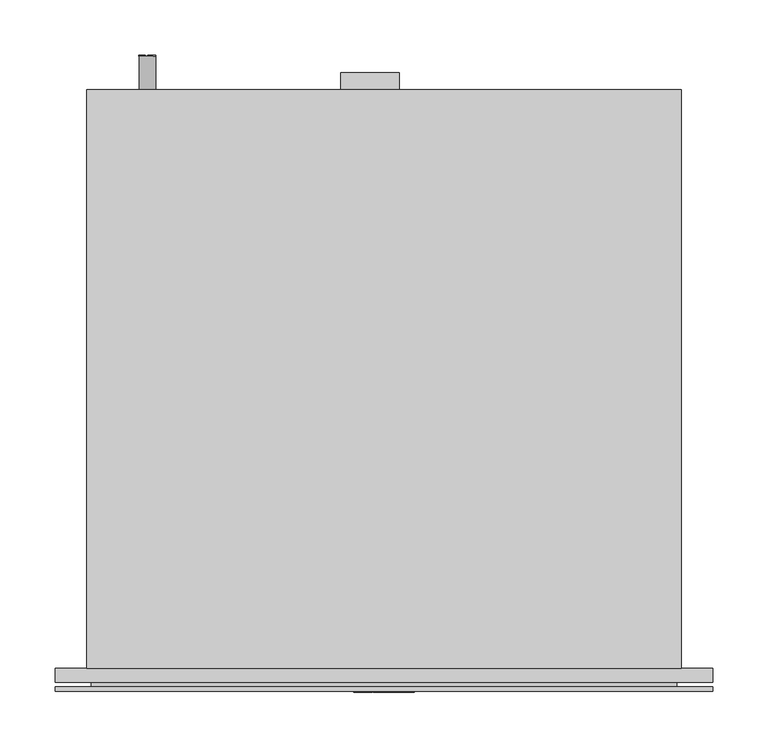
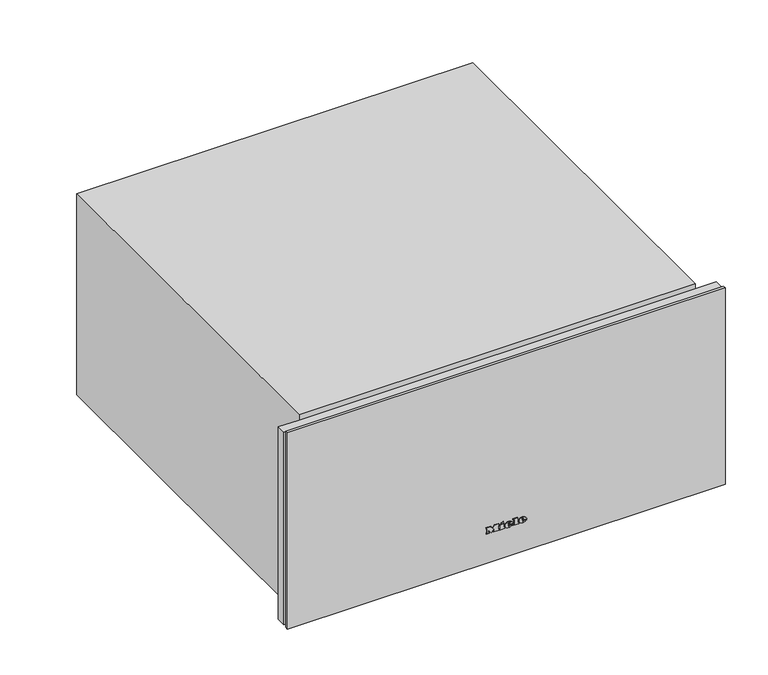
"""IFC4 building model written with IfcOpenShell, lengths in millimetres: proxy geometry, 11114600_TR_ESW7020_GRGR : 30702030_TR_11114600_ESW7020_GRGR."""

from ifc_helpers import new_model, si_unit, point, frame, frame_2d, origin, place, context, project, spatial, polyline, circle_curve, ellipse_curve, trimmed, segment, composite_curve, outline, extrude, faceted_brep, source, transform, mapped, element, save
from ifc_brep_helpers import plane_surface, cylinder_surface, revolved_surface, extruded_surface, advanced_brep


def specialty_equipment_7f4cc5ff(model_context):
    return source(origin(), model_context, "Body", "SolidModel", [
        advanced_brep(
        [(21.28, -22.0, 48.133), (21.28, -22.0, 49.042), (27.301, -22.0, 49.042), (16.825, -22.0, 49.042), (19.3, -22.0, 46.0), (27.148, -22.0, 48.133), (24.43, -22.0, 48.133), (22.288, -22.0, 47.125), (21.28, -22.0, 50.194), (21.28, -22.0, 51.175), (22.819, -22.0, 51.175), (22.819, -22.0, 50.194), (21.28, -21.0, 48.133), (22.288, -21.0, 47.125), (24.43, -21.0, 48.133), (27.148, -21.0, 48.133), (19.3, -21.0, 46.0), (16.825, -21.0, 49.042), (27.301, -21.0, 49.042), (21.28, -21.0, 49.042), (21.28, -21.0, 50.194), (22.819, -21.0, 50.194), (22.819, -21.0, 51.175), (21.28, -21.0, 51.175)],
        [
            (0, 1),
            (1, 2),
            (2, 3, ellipse_curve(frame((22.063, -22.0, 49.042), z_axis=(0.0, -1.0, 0.0), x_axis=(-1.0, 0.0, 0.0)), 5.238, 4.329)),
            (3, 4, circle_curve(frame((20.3080491, -22.0, 49.348), z_axis=(0.0, -1.0, 0.0), x_axis=(0.0, 0.0, -1.0)), 3.4964649)),
            (4, 5, circle_curve(frame((21.9581428, -22.0, 51.724), z_axis=(0.0, -1.0, 0.0), x_axis=(0.0, 0.0, -1.0)), 6.3110933)),
            (5, 6),
            (6, 7, circle_curve(frame((22.7279412, -22.0, 48.97), z_axis=(0.0, 1.0, 0.0), x_axis=(0.0, 0.0, -1.0)), 1.896727)),
            (7, 0, circle_curve(frame((22.288, -22.0, 48.133), z_axis=(0.0, 1.0, 0.0), x_axis=(0.0, 0.0, -1.0)), 1.008)),
            (8, 9),
            (9, 10, circle_curve(frame((22.0495, -22.0, 51.175), z_axis=(0.0, 1.0, 0.0), x_axis=(0.0, 0.0, -1.0)), 0.7695)),
            (10, 11),
            (11, 8),
            (12, 13, circle_curve(frame((22.288, -21.0, 48.133), z_axis=(0.0, -1.0, 0.0), x_axis=(0.0, 0.0, -1.0)), 1.008)),
            (13, 14, circle_curve(frame((22.7279412, -21.0, 48.97), z_axis=(0.0, -1.0, 0.0), x_axis=(0.0, 0.0, -1.0)), 1.896727)),
            (14, 15),
            (15, 16, circle_curve(frame((21.9581428, -21.0, 51.724), z_axis=(0.0, 1.0, 0.0), x_axis=(0.0, 0.0, -1.0)), 6.3110933)),
            (16, 17, circle_curve(frame((20.3080491, -21.0, 49.348), z_axis=(0.0, 1.0, 0.0), x_axis=(0.0, 0.0, -1.0)), 3.4964649)),
            (17, 18, ellipse_curve(frame((22.063, -21.0, 49.042), z_axis=(0.0, 1.0, 0.0), x_axis=(-1.0, 0.0, 0.0)), 5.238, 4.329)),
            (18, 19),
            (19, 12),
            (20, 21),
            (21, 22),
            (22, 23, circle_curve(frame((22.0495, -21.0, 51.175), z_axis=(0.0, -1.0, 0.0), x_axis=(0.0, 0.0, -1.0)), 0.7695)),
            (23, 20),
            (0, 12),
            (19, 1),
            (18, 2),
            (5, 15),
            (14, 6),
            (17, 3),
            (13, 7),
            (16, 4),
            (8, 20),
            (23, 9),
            (22, 10),
            (21, 11),
        ],
        [
            plane_surface(frame((21.28, -22.0, 49.042), z_axis=(0.0, -1.0, 0.0), x_axis=(0.0, 0.0, 1.0))),
            plane_surface(frame((21.28, -21.0, 49.042), z_axis=(0.0, 1.0, 0.0), x_axis=(0.0, 0.0, -1.0))),
            plane_surface(frame((21.28, -22.0, 48.133), z_axis=(1.0, 0.0, 0.0), x_axis=(0.0, 1.0, 0.0))),
            plane_surface(frame((21.28, -22.0, 49.042), z_axis=(0.0, 0.0, -1.0), x_axis=(0.0, 1.0, 0.0))),
            plane_surface(frame((27.148, -22.0, 48.133), z_axis=(0.0, 0.0, 1.0), x_axis=(0.0, 1.0, 0.0))),
            extruded_surface(trimmed(ellipse_curve(frame((22.063, -20.0, 49.042), z_axis=(0.0, -1.0, 0.0), x_axis=(-1.0, 0.0, 0.0)), 5.238, 4.329), [point((27.301, -20.0, 49.042))], [point((16.825, -20.0, 49.042))], True, "CARTESIAN"), (0.0, -1.0, 0.0), 1.0),
            revolved_surface(polyline([(22.7279412, -21.0, 47.073273), (22.7279412, -22.0, 47.073273)]), (22.7279412, -21.0, 48.97), (0.0, 1.0, 0.0)),
            revolved_surface(polyline([(22.288, -21.0, 47.125), (22.288, -22.0, 47.125)]), (22.288, -21.0, 48.133), (0.0, 1.0, 0.0)),
            cylinder_surface(frame((20.3080491, -21.0, 49.348), z_axis=(0.0, -1.0, 0.0), x_axis=(0.0, 0.0, -1.0)), 3.4964649),
            cylinder_surface(frame((21.9581428, -21.0, 51.724), z_axis=(0.0, -1.0, 0.0), x_axis=(0.0, 0.0, -1.0)), 6.3110933),
            plane_surface(frame((21.28, -22.0, 50.194), z_axis=(1.0, 0.0, 0.0), x_axis=(0.0, 1.0, 0.0))),
            revolved_surface(polyline([(22.0495, -21.0, 50.405499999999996), (22.0495, -22.0, 50.405499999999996)]), (22.0495, -21.0, 51.175), (0.0, 1.0, 0.0)),
            plane_surface(frame((22.819, -22.0, 51.175), z_axis=(-1.0, 0.0, 0.0), x_axis=(0.0, 1.0, 0.0))),
            plane_surface(frame((22.819, -22.0, 50.194), z_axis=(0.0, 0.0, 1.0), x_axis=(0.0, 1.0, 0.0))),
        ],
        [
            (0, [[1, 2, 3, 4, 5, 6, 7, 8], [9, 10, 11, 12]]),
            (1, [[13, 14, 15, 16, 17, 18, 19, 20], [21, 22, 23, 24]]),
            (2, [[-1, 25, -20, 26]]),
            (3, [[-2, -26, -19, 27]]),
            (4, [[-6, 28, -15, 29]]),
            (5, [[-3, -27, -18, 30]]),
            (6, [[-7, -29, -14, 31]]),
            (7, [[-8, -31, -13, -25]]),
            (8, [[-4, -30, -17, 32]]),
            (9, [[-5, -32, -16, -28]]),
            (10, [[-9, 33, -24, 34]]),
            (11, [[-10, -34, -23, 35]]),
            (12, [[-11, -35, -22, 36]]),
            (13, [[-12, -36, -21, -33]]),
        ],
    ),
        advanced_brep(
        [(2.497, -22.0, 48.133), (2.497, -22.0, 49.042), (8.518, -22.0, 49.042), (-1.958, -22.0, 49.042), (0.517, -22.0, 46.0), (8.365, -22.0, 48.133), (5.647, -22.0, 48.133), (3.505, -22.0, 47.125), (2.497, -22.0, 50.194), (2.497, -22.0, 51.175), (4.036, -22.0, 51.175), (4.036, -22.0, 50.194), (2.497, -21.0, 48.133), (3.505, -21.0, 47.125), (5.647, -21.0, 48.133), (8.365, -21.0, 48.133), (0.517, -21.0, 46.0), (-1.958, -21.0, 49.042), (8.518, -21.0, 49.042), (2.497, -21.0, 49.042), (2.497, -21.0, 50.194), (4.036, -21.0, 50.194), (4.036, -21.0, 51.175), (2.497, -21.0, 51.175)],
        [
            (0, 1),
            (1, 2),
            (2, 3, ellipse_curve(frame((3.28, -22.0, 49.042), z_axis=(0.0, -1.0, 0.0), x_axis=(-1.0, 0.0, 0.0)), 5.238, 4.329)),
            (3, 4, circle_curve(frame((1.5250491, -22.0, 49.348), z_axis=(0.0, -1.0, 0.0), x_axis=(0.0, 0.0, -1.0)), 3.4964649)),
            (4, 5, circle_curve(frame((3.1751428, -22.0, 51.724), z_axis=(0.0, -1.0, 0.0), x_axis=(0.0, 0.0, -1.0)), 6.3110933)),
            (5, 6),
            (6, 7, circle_curve(frame((3.9449412, -22.0, 48.97), z_axis=(0.0, 1.0, 0.0), x_axis=(0.0, 0.0, -1.0)), 1.896727)),
            (7, 0, circle_curve(frame((3.505, -22.0, 48.133), z_axis=(0.0, 1.0, 0.0), x_axis=(0.0, 0.0, -1.0)), 1.008)),
            (8, 9),
            (9, 10, circle_curve(frame((3.2665, -22.0, 51.175), z_axis=(0.0, 1.0, 0.0), x_axis=(0.0, 0.0, -1.0)), 0.7695)),
            (10, 11),
            (11, 8),
            (12, 13, circle_curve(frame((3.505, -21.0, 48.133), z_axis=(0.0, -1.0, 0.0), x_axis=(0.0, 0.0, -1.0)), 1.008)),
            (13, 14, circle_curve(frame((3.9449412, -21.0, 48.97), z_axis=(0.0, -1.0, 0.0), x_axis=(0.0, 0.0, -1.0)), 1.896727)),
            (14, 15),
            (15, 16, circle_curve(frame((3.1751428, -21.0, 51.724), z_axis=(0.0, 1.0, 0.0), x_axis=(0.0, 0.0, -1.0)), 6.3110933)),
            (16, 17, circle_curve(frame((1.5250491, -21.0, 49.348), z_axis=(0.0, 1.0, 0.0), x_axis=(0.0, 0.0, -1.0)), 3.4964649)),
            (17, 18, ellipse_curve(frame((3.28, -21.0, 49.042), z_axis=(0.0, 1.0, 0.0), x_axis=(-1.0, 0.0, 0.0)), 5.238, 4.329)),
            (18, 19),
            (19, 12),
            (20, 21),
            (21, 22),
            (22, 23, circle_curve(frame((3.2665, -21.0, 51.175), z_axis=(0.0, -1.0, 0.0), x_axis=(0.0, 0.0, -1.0)), 0.7695)),
            (23, 20),
            (0, 12),
            (19, 1),
            (18, 2),
            (5, 15),
            (14, 6),
            (17, 3),
            (13, 7),
            (16, 4),
            (8, 20),
            (23, 9),
            (22, 10),
            (21, 11),
        ],
        [
            plane_surface(frame((2.497, -22.0, 49.042), z_axis=(0.0, -1.0, 0.0), x_axis=(0.0, 0.0, 1.0))),
            plane_surface(frame((2.497, -21.0, 49.042), z_axis=(0.0, 1.0, 0.0), x_axis=(0.0, 0.0, -1.0))),
            plane_surface(frame((2.497, -22.0, 48.133), z_axis=(1.0, 0.0, 0.0), x_axis=(0.0, 1.0, 0.0))),
            plane_surface(frame((2.497, -22.0, 49.042), z_axis=(0.0, 0.0, -1.0), x_axis=(0.0, 1.0, 0.0))),
            plane_surface(frame((8.365, -22.0, 48.133), z_axis=(0.0, 0.0, 1.0), x_axis=(0.0, 1.0, 0.0))),
            extruded_surface(trimmed(ellipse_curve(frame((3.28, -20.0, 49.042), z_axis=(0.0, -1.0, 0.0), x_axis=(-1.0, 0.0, 0.0)), 5.238, 4.329), [point((8.518, -20.0, 49.042))], [point((-1.958, -20.0, 49.042))], True, "CARTESIAN"), (0.0, -1.0, 0.0), 1.0),
            revolved_surface(polyline([(3.9449412, -21.0, 47.073273), (3.9449412, -22.0, 47.073273)]), (3.9449412, -21.0, 48.97), (0.0, 1.0, 0.0)),
            revolved_surface(polyline([(3.505, -21.0, 47.125), (3.505, -22.0, 47.125)]), (3.505, -21.0, 48.133), (0.0, 1.0, 0.0)),
            cylinder_surface(frame((1.5250491, -21.0, 49.348), z_axis=(0.0, -1.0, 0.0), x_axis=(0.0, 0.0, -1.0)), 3.4964649),
            cylinder_surface(frame((3.1751428, -21.0, 51.724), z_axis=(0.0, -1.0, 0.0), x_axis=(0.0, 0.0, -1.0)), 6.3110933),
            plane_surface(frame((2.497, -22.0, 50.194), z_axis=(1.0, 0.0, 0.0), x_axis=(0.0, 1.0, 0.0))),
            revolved_surface(polyline([(3.2665, -21.0, 50.405499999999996), (3.2665, -22.0, 50.405499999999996)]), (3.2665, -21.0, 51.175), (0.0, 1.0, 0.0)),
            plane_surface(frame((4.036, -22.0, 51.175), z_axis=(-1.0, 0.0, 0.0), x_axis=(0.0, 1.0, 0.0))),
            plane_surface(frame((4.036, -22.0, 50.194), z_axis=(0.0, 0.0, 1.0), x_axis=(0.0, 1.0, 0.0))),
        ],
        [
            (0, [[1, 2, 3, 4, 5, 6, 7, 8], [9, 10, 11, 12]]),
            (1, [[13, 14, 15, 16, 17, 18, 19, 20], [21, 22, 23, 24]]),
            (2, [[-1, 25, -20, 26]]),
            (3, [[-2, -26, -19, 27]]),
            (4, [[-6, 28, -15, 29]]),
            (5, [[-3, -27, -18, 30]]),
            (6, [[-7, -29, -14, 31]]),
            (7, [[-8, -31, -13, -25]]),
            (8, [[-4, -30, -17, 32]]),
            (9, [[-5, -32, -16, -28]]),
            (10, [[-9, 33, -24, 34]]),
            (11, [[-10, -34, -23, 35]]),
            (12, [[-11, -35, -22, 36]]),
            (13, [[-12, -36, -21, -33]]),
        ],
    ),
        extrude(outline(polyline([(54.469, -7.34), (53.011, -6.656), (54.433, -3.605), (55.891, -4.28), (54.469, -7.34)])), frame((0.0, -22.0, 0.0), z_axis=(0.0, 1.0, 0.0), x_axis=(0.0, 0.0, 1.0)), (0.0, 0.0, 1.0), 1.0),
        extrude(outline(polyline([(52.813, -9.563), (51.202, -9.563), (51.202, -8.492), (47.512, -8.492), (47.512, -9.563), (46.0, -9.563), (46.0, -2.462), (47.512, -2.462), (47.512, -3.506), (52.813, -3.506), (52.813, -9.563)])), frame((0.0, -22.0, 0.0), z_axis=(0.0, 1.0, 0.0), x_axis=(0.0, 0.0, 1.0)), (0.0, 0.0, 1.0), 1.0),
        extrude(outline(polyline([(53.533, 9.022), (53.533, 10.102), (47.512, 10.102), (47.512, 9.022), (46.0, 9.022), (46.0, 16.321), (47.512, 16.321), (47.512, 15.214), (55.0, 15.214), (55.0, 9.022), (53.533, 9.022)])), frame((0.0, -22.0, 0.0), z_axis=(0.0, 1.0, 0.0), x_axis=(0.0, 0.0, 1.0)), (0.0, 0.0, 1.0), 1.0),
        extrude(outline(polyline([(53.533, -27.5), (53.533, -26.411), (47.512, -26.411), (47.512, -27.5), (46.0, -27.5), (46.0, -23.54), (47.512, -23.54), (47.512, -24.62), (51.3341247, -24.62), (46.0, -20.597), (51.4402223, -16.556), (47.512, -16.556), (47.512, -17.663), (46.0, -17.663), (46.0, -10.481), (47.512, -10.481), (47.512, -11.624), (53.533, -11.624), (53.533, -10.481), (55.0, -10.481), (55.0, -15.962), (51.625, -18.59), (55.0, -21.227), (55.0, -27.5), (53.533, -27.5)])), frame((0.0, -22.0, 0.0), z_axis=(0.0, 1.0, 0.0), x_axis=(0.0, 0.0, 1.0)), (0.0, 0.0, 1.0), 1.0),
        extrude(outline(polyline([(-297.5, -17.0), (297.5, -17.0), (297.5, -21.0), (-297.5, -21.0), (-297.5, -17.0)])), frame((0.0, 0.0, 4.0), z_axis=(0.0, 0.0, 1.0), x_axis=(1.0, 0.0, 0.0)), (0.0, 0.0, 1.0), 282.0),
        extrude(outline(polyline([(-265.0, -13.0), (265.0, -13.0), (265.0, -17.0), (-265.0, -17.0), (-265.0, -13.0)])), frame((0.0, 0.0, 6.0), z_axis=(0.0, 0.0, 1.0), x_axis=(1.0, 0.0, 0.0)), (0.0, 0.0, 1.0), 273.0),
        extrude(outline(polyline([(-13.0, 10.0), (-13.0, 274.0), (19.0, 274.0), (19.0, 233.0), (4.0, 233.0), (4.0, 10.0), (-13.0, 10.0)])), frame((-261.0, 0.0, 0.0), z_axis=(1.0, 0.0, 0.0), x_axis=(0.0, 1.0, 0.0)), (0.0, 0.0, 1.0), 522.0),
        extrude(outline(polyline([(24.045335, -206.6203116), (24.045335, -213.8439827), (22.7898265, -213.8439827), (22.7898265, -207.876825), (19.8076572, -207.876825), (19.8076572, -213.5281281), (18.5519876, -213.5281281), (18.5519876, -207.876825), (15.2564531, -207.876825), (15.2564531, -213.8439827), (14.0, -213.8439827), (14.0, -206.6203116), (24.045335, -206.6203116)])), frame((0.0, 554.0, 0.0), z_axis=(0.0, 1.0, 0.0), x_axis=(0.0, 0.0, 1.0)), (0.0, 0.0, 1.0), 1.0),
        extrude(outline(polyline([(24.0461611, -217.1431874), (15.255243, -217.1431874), (15.255243, -222.1617362), (13.9997538, -222.1617362), (13.9997538, -217.1431874), (13.9997538, -215.8823011), (24.0461611, -215.8823011), (24.0461611, -217.1431874)])), frame((0.0, 554.0, 0.0), z_axis=(0.0, 1.0, 0.0), x_axis=(0.0, 0.0, 1.0)), (0.0, 0.0, 1.0), 1.0),
        extrude(outline(composite_curve([segment(trimmed(circle_curve(frame_2d((19.0, -214.0)), 7.5), [point((19.0, -206.5))], [point((19.0, -221.5))], False, "CARTESIAN"), True, "CONTINUOUS"), segment(trimmed(circle_curve(frame_2d((19.0, -214.0)), 7.5), [point((19.0, -221.5))], [point((19.0, -206.5))], False, "CARTESIAN"), True, "CONTINUOUS")], self_intersect=False)), frame((0.0, 524.0, 0.0), z_axis=(0.0, 1.0, 0.0), x_axis=(0.0, 0.0, 1.0)), (0.0, 0.0, 1.0), 30.0),
        faceted_brep([(269.0, 524.0, 289.0), (269.0, 524.0, 0.0), (-269.0, 524.0, 0.0), (-269.0, 524.0, 289.0), (269.0, 0.0, 289.0), (269.0, 0.0, 281.5), (269.0, 0.0, 5.5), (269.0, 0.0, 0.0), (-269.0, 0.0, 0.0), (-269.0, 0.0, 5.5), (-269.0, 0.0, 281.5), (-269.0, 0.0, 289.0), (-297.5, 0.0, 281.5), (-297.5, -13.0, 281.5), (297.5, -13.0, 281.5), (297.5, 0.0, 281.5), (-267.0, 0.0, 5.5), (-267.0, -13.0, 5.5), (-297.5, -13.0, 5.5), (-297.5, 0.0, 5.5), (267.0, 0.0, 5.5), (297.5, 0.0, 5.5), (297.5, -13.0, 5.5), (267.0, -13.0, 5.5), (-267.0, -13.0, 279.0), (267.0, -13.0, 279.0), (267.0, 522.0, 279.0), (-267.0, 522.0, 279.0), (-267.0, 522.0, 6.0), (267.0, 522.0, 6.0), (-267.0, 0.0, 6.0), (267.0, 0.0, 6.0)], [[[0, 1, 2, 3]], [[1, 0, 4, 5, 6, 7]], [[3, 2, 8, 9, 10, 11]], [[5, 10, 12, 13, 14, 15]], [[10, 5, 4, 11]], [[9, 16, 17, 18, 19]], [[20, 6, 21, 22, 23]], [[12, 10, 9, 19]], [[5, 15, 21, 6]], [[14, 13, 18, 17, 24, 25, 23, 22]], [[15, 14, 22, 21]], [[13, 12, 19, 18]], [[26, 27, 28, 29]], [[29, 28, 30, 31]], [[27, 26, 25, 24]], [[30, 16, 9, 8, 7, 6, 20, 31]], [[2, 1, 7, 8]], [[0, 3, 11, 4]], [[17, 16, 30, 28, 27, 24]], [[25, 26, 29, 31, 20, 23]]]),
        extrude(outline(polyline([(-39.0, 539.0), (14.0, 539.0), (14.0, 524.0), (-39.0, 524.0), (-39.0, 539.0)])), frame((0.0, 0.0, 4.0), z_axis=(0.0, 0.0, 1.0), x_axis=(1.0, 0.0, 0.0)), (0.0, 0.0, 1.0), 29.0),
    ])


if __name__ == "__main__":
    model = new_model("IFC4")
    model_context = context("Model", 3, world=origin())
    ifc_project = project(units=[si_unit("LENGTHUNIT", "METRE", prefix="MILLI")], contexts=[model_context])
    site = spatial("IfcSite", under=ifc_project)
    building = spatial("IfcBuilding", under=site)
    placement = place(None, origin())
    specialty_equipment_shape = specialty_equipment_7f4cc5ff(model_context)
    element("IfcBuildingElementProxy", 1, Name="11114600_TR_ESW7020_GRGR : 30702030_TR_11114600_ESW7020_GRGR", ObjectType="11114600_TR_ESW7020_GRGR : 30702030_TR_11114600_ESW7020_GRGR", at=placement, inside=building, context=model_context, shape_type="MappedRepresentation", body=[
        mapped(specialty_equipment_shape, transform((0.0, 0.0, 0.0), x_axis=(1.0, 0.0, 0.0), y_axis=(0.0, 1.0, 0.0), z_axis=(0.0, 0.0, 1.0))),
    ])
    save(model, "model.ifc")
